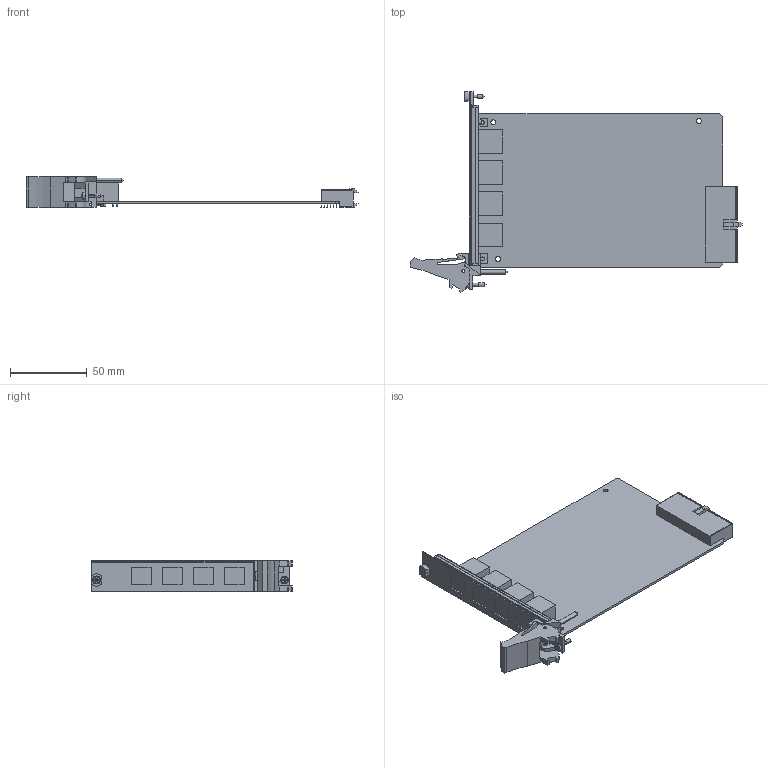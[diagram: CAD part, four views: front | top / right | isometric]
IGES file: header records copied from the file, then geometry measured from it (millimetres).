
Start section:  PTC IGES file: cu_pxi-8432-8434.igs
Global section: file name: cu_pxi-8432-8434.igs; native system: Pro/ENGINEER by Parametric Technology Corporation; preprocessor: 2006080; author: dcrowder; organization: Unknown; date: 080422.141334; units: inch
Bounding box: 216.08 x 130.5 x 20.49 mm (x, y, z)
Surface area: 54031.5 mm2 (no closed solid volume)
Topology: 0 solids, 0 shells, 677 faces, 3392 edges, 3388 vertices
Faces by surface type: bspline 418, revolution 259
